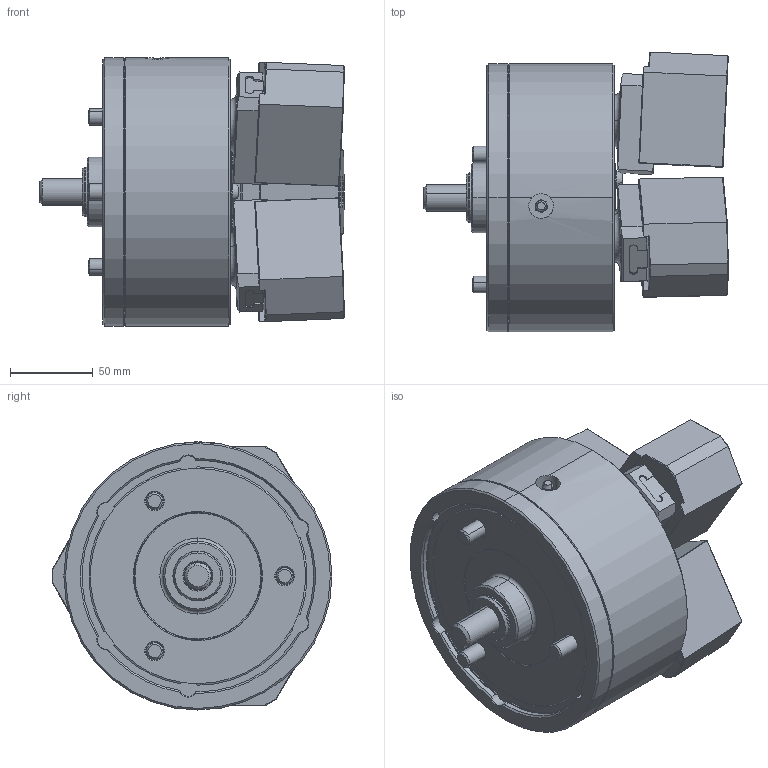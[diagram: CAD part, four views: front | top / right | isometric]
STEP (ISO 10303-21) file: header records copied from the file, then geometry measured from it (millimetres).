
FILE_DESCRIPTION (( 'STEP AP214' ), '1' );
FILE_NAME ('PW06_UC_ID.STEP', '2019-10-03T02:01:11', ( '' ), ( '' ), 'SwSTEP 2.0', 'SolidWorks 2017', '' );
FILE_SCHEMA (( 'AUTOMOTIVE_DESIGN' ));
Length unit declared in the file: millimetre
Products named in the file (5): 結合_ID; 0030110016; 61P422013; 61P324975; PW06_UC_ID
Assembly tree (13 placements, depth 2):
  PW06_UC_ID
    61P324975  x3
    61P422013  x3
    0030110016  x6
    結合_ID
Bounding box: 184.06 x 169.14 x 162 mm (x, y, z)
Volume: 2043934.5 mm3; surface area: 228128.6 mm2
Topology: 13 solids, 14 shells, 1747 faces, 4288 edges, 2680 vertices
Faces by surface type: plane 848, cone 315, cylinder 276, bspline 241, torus 61, sphere 6
Entity records: 52957 total; most frequent: CARTESIAN_POINT 20108, ORIENTED_EDGE 7196, DIRECTION 5962, EDGE_CURVE 3598, VERTEX_POINT 2285, AXIS2_PLACEMENT_3D 2020, LINE 1922, VECTOR 1922
